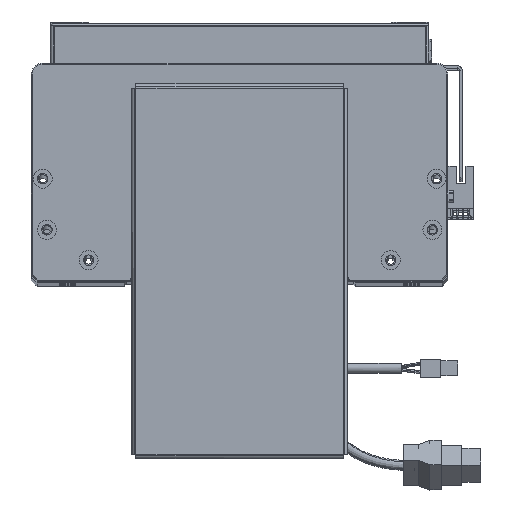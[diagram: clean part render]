
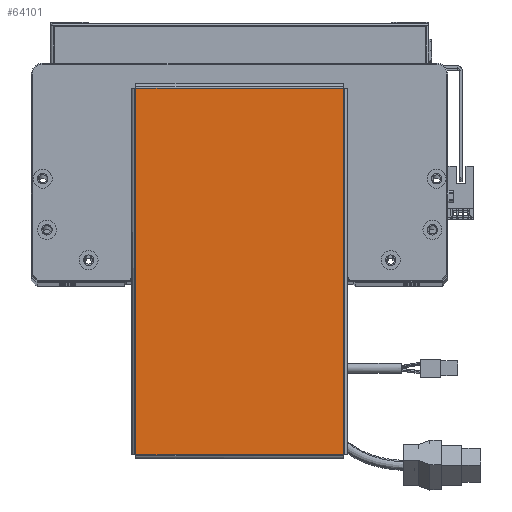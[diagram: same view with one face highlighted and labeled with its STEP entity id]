
A CAD part, top view. The second image highlights one B-rep face of the part: STEP entity #64101.
In plain terms, the highlighted planar face has unit normal (0, 0, 1).
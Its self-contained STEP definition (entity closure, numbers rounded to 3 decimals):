
#1333 = CARTESIAN_POINT ( 'NONE',  ( -96.763, 54.763, 0. ) ) ;
#3250 = FACE_OUTER_BOUND ( 'NONE', #12877, .T. ) ;
#4554 = CARTESIAN_POINT ( 'NONE',  ( 96.793, 54.763, 0. ) ) ;
#7244 = EDGE_CURVE ( 'NONE', #35540, #36281, #10530, .T. ) ;
#10530 = LINE ( 'NONE', #51231, #55589 ) ;
#10534 = DIRECTION ( 'NONE',  ( 0., 0., 1. ) ) ;
#11293 = VECTOR ( 'NONE', #37030, 1000. ) ;
#12877 = EDGE_LOOP ( 'NONE', ( #45606, #55776, #14139, #46447 ) ) ;
#13755 = LINE ( 'NONE', #16536, #11293 ) ;
#14139 = ORIENTED_EDGE ( 'NONE', *, *, #45125, .T. ) ;
#16536 = CARTESIAN_POINT ( 'NONE',  ( 96.763, -54.793, 0. ) ) ;
#19298 = CARTESIAN_POINT ( 'NONE',  ( 96.763, -54.763, 0. ) ) ;
#23638 = DIRECTION ( 'NONE',  ( 1., 0., 0. ) ) ;
#24559 = VERTEX_POINT ( 'NONE', #48030 ) ;
#25458 = VERTEX_POINT ( 'NONE', #19298 ) ;
#28093 = EDGE_CURVE ( 'NONE', #25458, #24559, #13755, .T. ) ;
#29978 = DIRECTION ( 'NONE',  ( -1., 0., 0. ) ) ;
#30565 = VECTOR ( 'NONE', #29978, 1000. ) ;
#33096 = LINE ( 'NONE', #39149, #57987 ) ;
#35540 = VERTEX_POINT ( 'NONE', #1333 ) ;
#36281 = VERTEX_POINT ( 'NONE', #39239 ) ;
#36636 = DIRECTION ( 'NONE',  ( 1., 0., 0. ) ) ;
#37030 = DIRECTION ( 'NONE',  ( 0., 1., 0. ) ) ;
#38666 = LINE ( 'NONE', #4554, #30565 ) ;
#39149 = CARTESIAN_POINT ( 'NONE',  ( -96.793, -54.763, 0. ) ) ;
#39239 = CARTESIAN_POINT ( 'NONE',  ( -96.763, -54.763, 0. ) ) ;
#45125 = EDGE_CURVE ( 'NONE', #24559, #35540, #38666, .T. ) ;
#45606 = ORIENTED_EDGE ( 'NONE', *, *, #59561, .T. ) ;
#46447 = ORIENTED_EDGE ( 'NONE', *, *, #7244, .T. ) ;
#46779 = DIRECTION ( 'NONE',  ( 0., -1., 0. ) ) ;
#48030 = CARTESIAN_POINT ( 'NONE',  ( 96.763, 54.763, 0. ) ) ;
#51231 = CARTESIAN_POINT ( 'NONE',  ( -96.763, 54.793, 0. ) ) ;
#55589 = VECTOR ( 'NONE', #46779, 1000. ) ;
#55709 = PLANE ( 'NONE',  #58820 ) ;
#55776 = ORIENTED_EDGE ( 'NONE', *, *, #28093, .T. ) ;
#57475 = CARTESIAN_POINT ( 'NONE',  ( 0., 0., 0. ) ) ;
#57987 = VECTOR ( 'NONE', #23638, 1000. ) ;
#58820 = AXIS2_PLACEMENT_3D ( 'NONE', #57475, #10534, #36636 ) ;
#59561 = EDGE_CURVE ( 'NONE', #36281, #25458, #33096, .T. ) ;
#64101 = ADVANCED_FACE ( 'NONE', ( #3250 ), #55709, .T. ) ;
